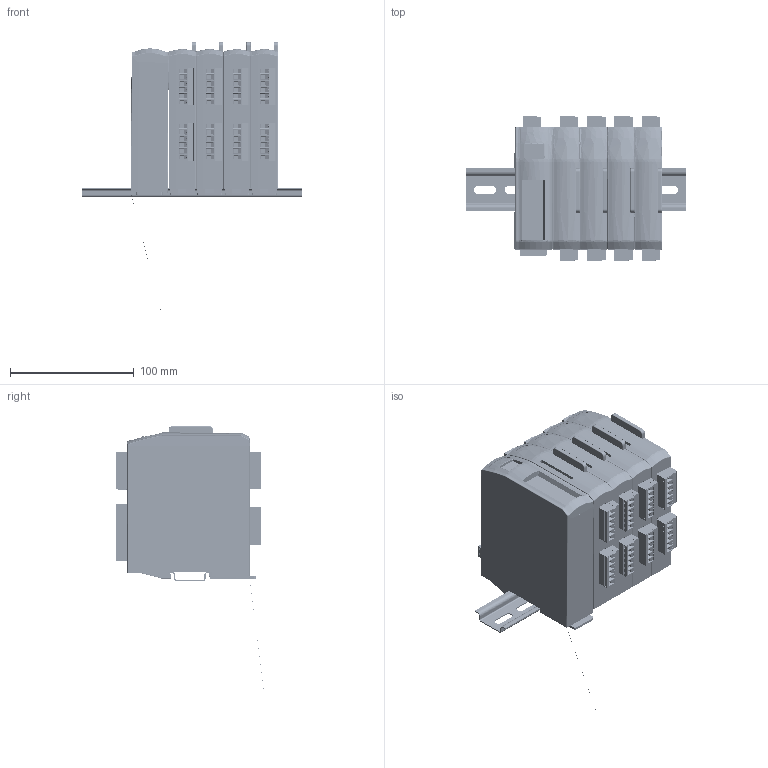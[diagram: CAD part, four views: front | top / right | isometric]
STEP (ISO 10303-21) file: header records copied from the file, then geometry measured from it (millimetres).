
FILE_DESCRIPTION (( 'STEP AP203' ), '1' );
FILE_NAME ('MLC9000-CC-01.STEP', '2017-02-05T12:17:37', ( '' ), ( '' ), 'SwSTEP 2.0', 'SolidWorks 2016', '' );
FILE_SCHEMA (( 'CONFIG_CONTROL_DESIGN' ));
Length unit declared in the file: millimetre
Products named in the file (7): MLC9000-CC-01; 1757019; User Library-Din Rail-2_Single Genset; 19120321; Loop Module - CC - 04; bus module - cc - 03; 1757051
Assembly tree (24 placements, depth 2):
  MLC9000-CC-01
    User Library-Din Rail-2_Single Genset  x2
    19120321  x4
    1757051  x12
    bus module - cc - 03
    Loop Module - CC - 04  x4
    1757019
Bounding box: 177.8 x 123.18 x 242.3 mm (x, y, z)
Volume: 1395023.6 mm3; surface area: 248579 mm2
Topology: 24 solids, 24 shells, 16521 faces, 44707 edges, 28979 vertices
Faces by surface type: plane 12837, cylinder 2673, bspline 507, cone 456, torus 32, sphere 16
Entity records: 95808 total; most frequent: CARTESIAN_POINT 28015, ORIENTED_EDGE 14368, DIRECTION 12916, EDGE_CURVE 7184, VECTOR 5760, LINE 5760, VERTEX_POINT 4681, AXIS2_PLACEMENT_3D 3578
